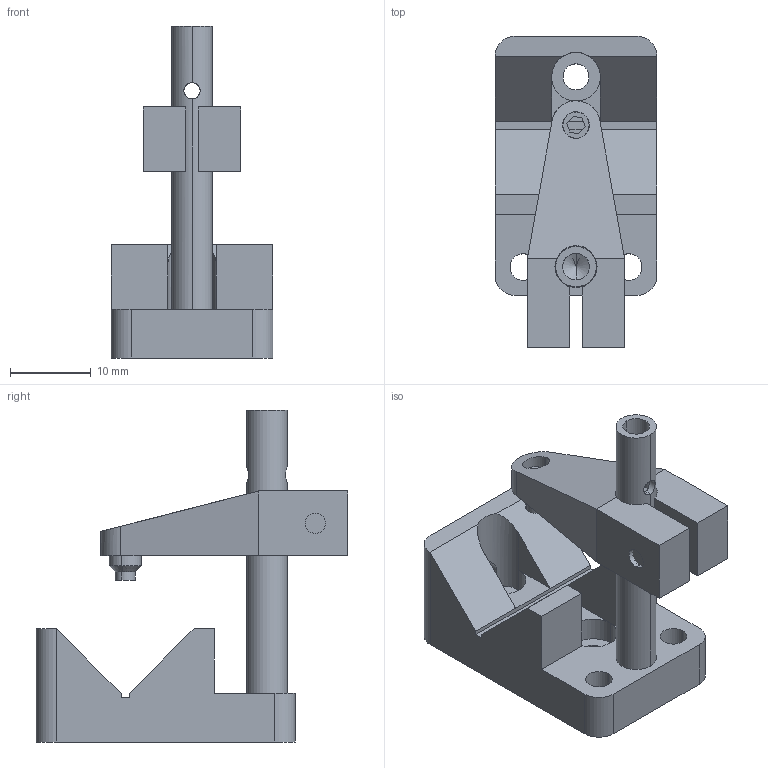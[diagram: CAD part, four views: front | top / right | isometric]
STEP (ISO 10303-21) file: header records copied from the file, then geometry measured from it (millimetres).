
FILE_DESCRIPTION (( 'STEP AP203' ), '1' );
FILE_NAME ('V型夹持座（小）.STEP', '2022-09-05T05:47:26', ( '' ), ( '' ), 'SwSTEP 2.0', 'SolidWorks 2018', '' );
FILE_SCHEMA (( 'CONFIG_CONTROL_DESIGN' ));
Length unit declared in the file: millimetre
Products named in the file (1): V倰標厥釱ㄗ苤ㄘ
Bounding box: 20 x 38.5 x 41 mm (x, y, z)
Surface area: 5150.4 mm2 (no closed solid volume)
Topology: 0 solids, 9 shells, 113 faces, 303 edges, 193 vertices
Faces by surface type: plane 59, cylinder 46, cone 6, torus 2
Entity records: 3764 total; most frequent: CARTESIAN_POINT 812, DIRECTION 615, ORIENTED_EDGE 566, EDGE_CURVE 299, AXIS2_PLACEMENT_3D 218, VERTEX_POINT 193, LINE 179, VECTOR 179
